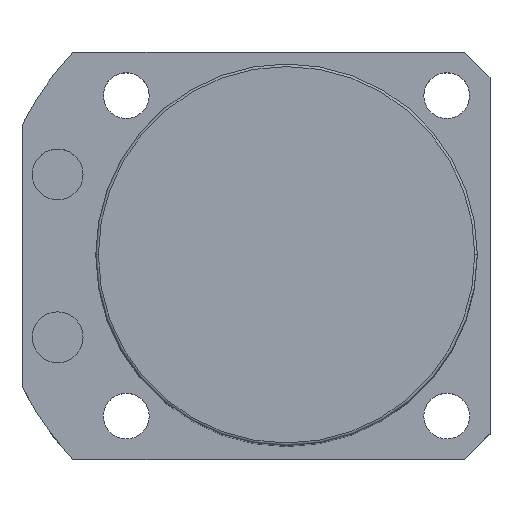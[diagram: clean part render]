
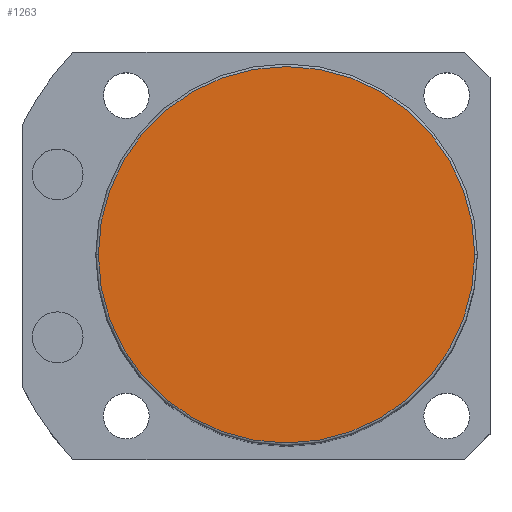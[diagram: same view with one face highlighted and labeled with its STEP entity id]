
A CAD part, top view. The second image highlights one B-rep face of the part: STEP entity #1263.
In plain terms, the highlighted planar face has unit normal (0, 0, 1).
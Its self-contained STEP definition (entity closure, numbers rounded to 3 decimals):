
#236 = DIRECTION ( 'NONE',  ( 1., 0., 0. ) ) ;
#247 = DIRECTION ( 'NONE',  ( 0., 0., 1. ) ) ;
#473 = CIRCLE ( 'NONE', #1138, 37. ) ;
#601 = DIRECTION ( 'NONE',  ( 1., 0., 0. ) ) ;
#623 = AXIS2_PLACEMENT_3D ( 'NONE', #1264, #247, #236 ) ;
#655 = CARTESIAN_POINT ( 'NONE',  ( 0., 0., 140.5 ) ) ;
#749 = CARTESIAN_POINT ( 'NONE',  ( 0., 0., 140.5 ) ) ;
#801 = CIRCLE ( 'NONE', #623, 37. ) ;
#861 = CARTESIAN_POINT ( 'NONE',  ( -37., 0., 140.5 ) ) ;
#906 = EDGE_LOOP ( 'NONE', ( #1154, #1990 ) ) ;
#954 = EDGE_CURVE ( 'NONE', #1544, #1350, #473, .T. ) ;
#1121 = AXIS2_PLACEMENT_3D ( 'NONE', #655, #1393, #601 ) ;
#1138 = AXIS2_PLACEMENT_3D ( 'NONE', #749, #2350, #1937 ) ;
#1154 = ORIENTED_EDGE ( 'NONE', *, *, #2181, .T. ) ;
#1189 = CARTESIAN_POINT ( 'NONE',  ( 37., 0., 140.5 ) ) ;
#1263 = ADVANCED_FACE ( 'NONE', ( #2424 ), #1854, .T. ) ;
#1264 = CARTESIAN_POINT ( 'NONE',  ( 0., 0., 140.5 ) ) ;
#1350 = VERTEX_POINT ( 'NONE', #1189 ) ;
#1393 = DIRECTION ( 'NONE',  ( 0., 0., 1. ) ) ;
#1544 = VERTEX_POINT ( 'NONE', #861 ) ;
#1854 = PLANE ( 'NONE',  #1121 ) ;
#1937 = DIRECTION ( 'NONE',  ( 1., 0., 0. ) ) ;
#1990 = ORIENTED_EDGE ( 'NONE', *, *, #954, .T. ) ;
#2181 = EDGE_CURVE ( 'NONE', #1350, #1544, #801, .T. ) ;
#2350 = DIRECTION ( 'NONE',  ( 0., 0., 1. ) ) ;
#2424 = FACE_OUTER_BOUND ( 'NONE', #906, .T. ) ;
